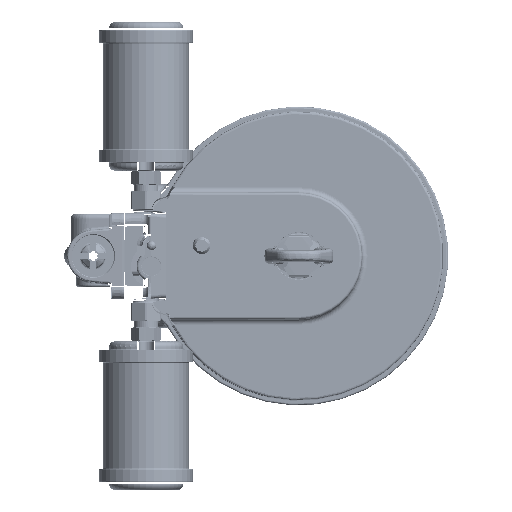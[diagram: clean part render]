
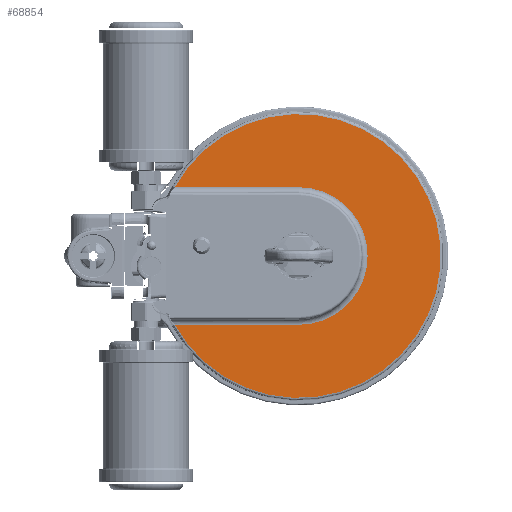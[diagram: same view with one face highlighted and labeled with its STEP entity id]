
A CAD part, left-side view. The second image highlights one B-rep face of the part: STEP entity #68854.
In plain terms, the highlighted planar face has unit normal (-1, 0, 0).
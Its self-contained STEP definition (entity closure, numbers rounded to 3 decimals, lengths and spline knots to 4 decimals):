
#52860=CARTESIAN_POINT('',(-6.71,0.,0.));
#52861=DIRECTION('',(-1.,0.,0.));
#52862=DIRECTION('',(0.,0.875,-0.484));
#52863=AXIS2_PLACEMENT_3D('',#52860,#52861,#52862);
#52865=DIRECTION('',(0.,-1.,0.));
#52866=VECTOR('',#52865,4.1746);
#52867=CARTESIAN_POINT('',(-6.71,4.1746,-2.3115));
#52868=LINE('',#52867,#52866);
#52869=CARTESIAN_POINT('',(-6.71,0.,0.));
#52870=DIRECTION('',(-1.,0.,0.));
#52871=DIRECTION('',(0.,0.,-1.));
#52872=AXIS2_PLACEMENT_3D('',#52869,#52870,#52871);
#52874=DIRECTION('',(0.,1.,0.));
#52875=VECTOR('',#52874,4.1746);
#52876=CARTESIAN_POINT('',(-6.71,0.,2.3115));
#52877=LINE('',#52876,#52875);
#66669=CARTESIAN_POINT('',(-6.71,4.1746,
-2.3115));
#66670=CARTESIAN_POINT('',(-6.71,4.1746,
2.3115));
#66671=VERTEX_POINT('',#66669);
#66672=VERTEX_POINT('',#66670);
#66685=CARTESIAN_POINT('',(-6.71,0.,-2.3115));
#66686=CARTESIAN_POINT('',(-6.71,0.,2.3115));
#66687=VERTEX_POINT('',#66685);
#66688=VERTEX_POINT('',#66686);
#68839=CARTESIAN_POINT('',(-6.71,0.,0.));
#68840=DIRECTION('',(-1.,0.,0.));
#68841=DIRECTION('',(0.,0.,1.));
#68842=AXIS2_PLACEMENT_3D('',#68839,#68840,#68841);
#68843=PLANE('',#68842);
#68845=ORIENTED_EDGE('',*,*,#68844,.F.);
#68847=ORIENTED_EDGE('',*,*,#68846,.T.);
#68849=ORIENTED_EDGE('',*,*,#68848,.T.);
#68851=ORIENTED_EDGE('',*,*,#68850,.T.);
#68852=EDGE_LOOP('',(#68845,#68847,#68849,#68851));
#68853=FACE_OUTER_BOUND('',#68852,.F.);
#68854=ADVANCED_FACE('',(#68853),#68843,.T.);
#52864=CIRCLE('',#52863,4.7718);
#52873=CIRCLE('',#52872,2.3115);
#68844=EDGE_CURVE('',#66671,#66672,#52864,.T.);
#68846=EDGE_CURVE('',#66671,#66687,#52868,.T.);
#68848=EDGE_CURVE('',#66687,#66688,#52873,.T.);
#68850=EDGE_CURVE('',#66688,#66672,#52877,.T.);
